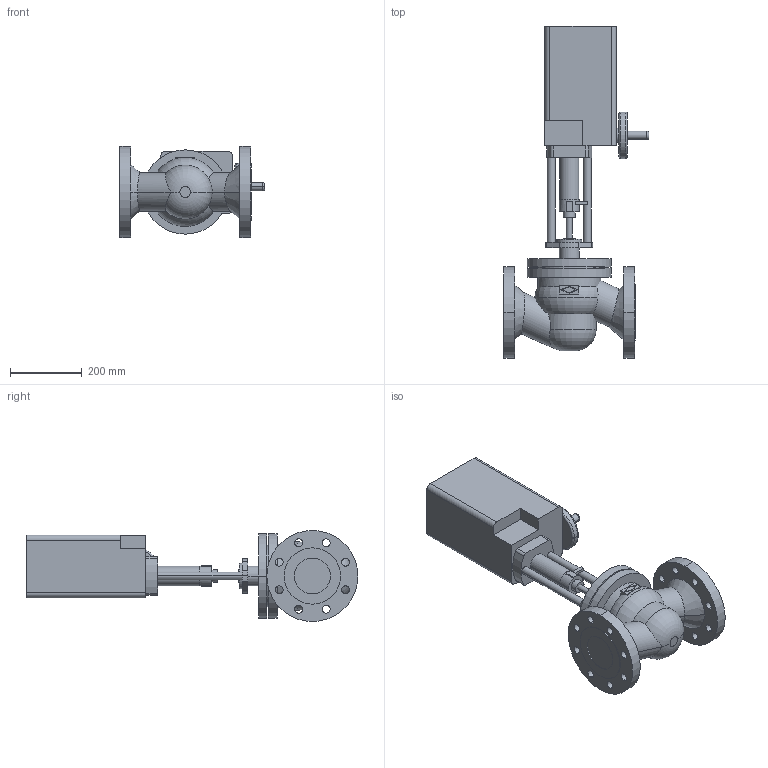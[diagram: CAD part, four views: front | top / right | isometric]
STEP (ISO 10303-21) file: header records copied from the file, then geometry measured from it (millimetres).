
FILE_DESCRIPTION(('OneSpaceDesigner STEP Export'),'2;1');
FILE_NAME('c000003576.stp','2008-02-19T10:56:14',(''),(''),'OneSpace Designer STEP processor for AP214 (Solid Model)','OneSpace Modeling 15.50B 03-Nov-2007 (C) CoCreate Software GmbH','');
FILE_SCHEMA(('AUTOMOTIVE_DESIGN { 1 0 10303 214 1 1 1 1 }'));
Length unit declared in the file: millimetre
Products named in the file (2): 1; 2
Bounding box: 405.6 x 925 x 254 mm (x, y, z)
Volume: 23859138.7 mm3; surface area: 996002.2 mm2
Topology: 2 solids, 2 shells, 189 faces, 464 edges, 306 vertices
Faces by surface type: cylinder 98, plane 75, torus 12, cone 4
Entity records: 6964 total; most frequent: CARTESIAN_POINT 1277, ORIENTED_EDGE 928, DIRECTION 756, EDGE_CURVE 464, VERTEX_POINT 306, AXIS2_PLACEMENT_3D 271, EDGE_LOOP 248, VECTOR 214
